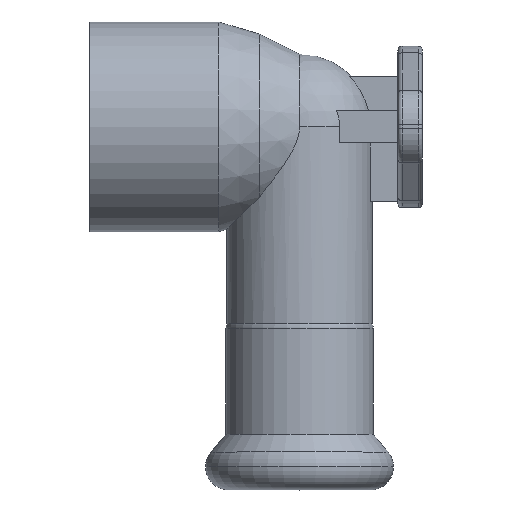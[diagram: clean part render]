
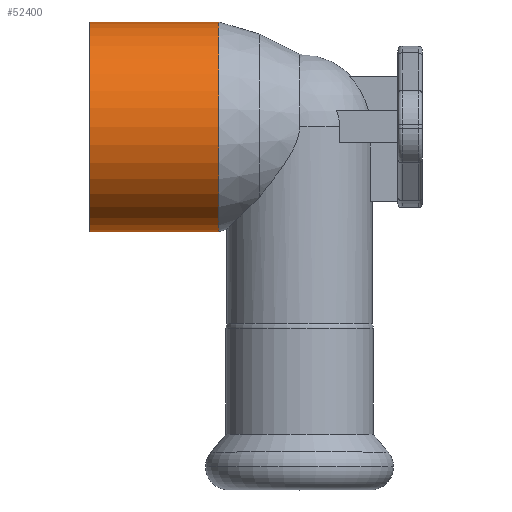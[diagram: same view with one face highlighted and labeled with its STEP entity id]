
A CAD part, top view. The second image highlights one B-rep face of the part: STEP entity #52400.
In plain terms, the highlighted cylindrical face has radius 13 mm (diameter 26 mm), a partial arc.
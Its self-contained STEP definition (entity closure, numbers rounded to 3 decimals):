
#18410=CARTESIAN_POINT('',(-86.193,3.409,0.));
#18420=VERTEX_POINT('',#18410);
#18570=CARTESIAN_POINT('',(-86.193,29.409,
0.));
#18580=VERTEX_POINT('',#18570);
#18610=CARTESIAN_POINT('',(-86.193,16.409,0.));
#18620=DIRECTION('',(1.,0.,0.));
#18630=DIRECTION('',(0.,-1.,0.));
#18640=AXIS2_PLACEMENT_3D('',#18610,#18620,#18630);
#18650=CIRCLE('',#18640,13.);
#18660=EDGE_CURVE('',#18580,#18420,#18650,.T.);
#18710=CARTESIAN_POINT('',(-86.193,16.409,0.));
#18720=DIRECTION('',(-1.,0.,0.));
#18730=DIRECTION('',(0.,-1.,0.));
#18740=AXIS2_PLACEMENT_3D('',#18710,#18720,#18730);
#18750=CYLINDRICAL_SURFACE('',#18740,13.);
#18760=CARTESIAN_POINT('',(-86.193,29.409,
0.));
#18770=DIRECTION('',(-1.,0.,0.));
#18780=VECTOR('',#18770,1.);
#18790=LINE('',#18760,#18780);
#18800=CARTESIAN_POINT('',(-70.193,29.409,
0.));
#18810=VERTEX_POINT('',#18800);
#18820=EDGE_CURVE('',#18810,#18580,#18790,.T.);
#18860=CARTESIAN_POINT('',(-86.193,3.409,0.));
#18870=DIRECTION('',(-1.,0.,0.));
#18880=VECTOR('',#18870,1.);
#18890=LINE('',#18860,#18880);
#18900=CARTESIAN_POINT('',(-70.193,3.409,0.));
#18910=VERTEX_POINT('',#18900);
#18920=EDGE_CURVE('',#18910,#18420,#18890,.T.);
#18940=CARTESIAN_POINT('',(-70.193,16.409,0.));
#18950=DIRECTION('',(-1.,0.,0.));
#18960=DIRECTION('',(0.,-1.,0.));
#18970=AXIS2_PLACEMENT_3D('',#18940,#18950,#18960);
#18980=CIRCLE('',#18970,13.);
#19240=EDGE_CURVE('',#18910,#18810,#18980,.T.);
#52340=ORIENTED_EDGE('',*,*,#18820,.T.);
#52350=ORIENTED_EDGE('',*,*,#19240,.T.);
#52360=ORIENTED_EDGE('',*,*,#18920,.F.);
#52370=ORIENTED_EDGE('',*,*,#18660,.T.);
#52380=EDGE_LOOP('',(#52370,#52360,#52350,#52340));
#52390=FACE_OUTER_BOUND('',#52380,.T.);
#52400=ADVANCED_FACE('',(#52390),#18750,.T.);
